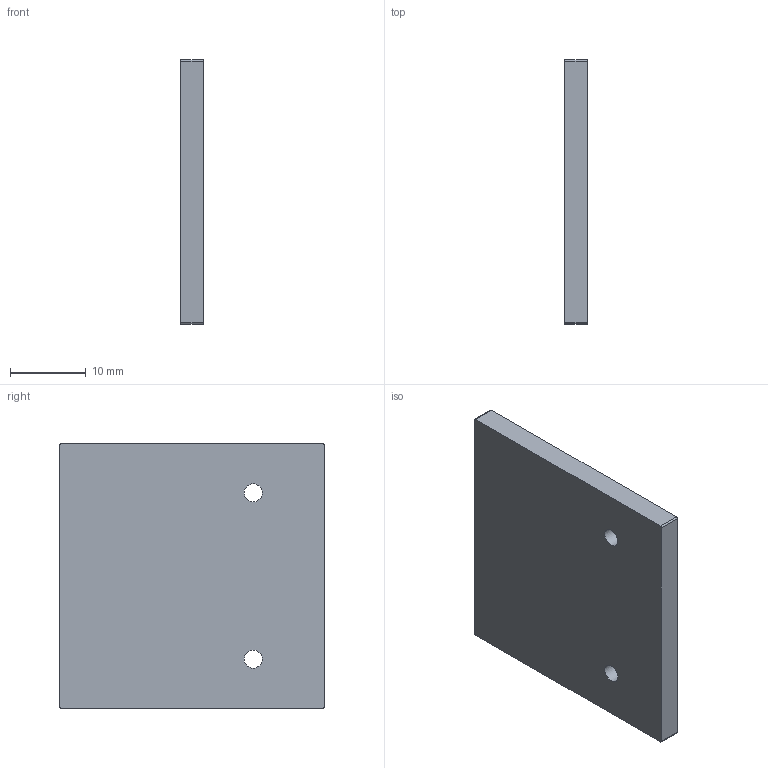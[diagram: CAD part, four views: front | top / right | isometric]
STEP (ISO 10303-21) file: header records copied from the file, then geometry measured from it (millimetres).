
FILE_DESCRIPTION (( 'STEP AP203' ), '1' );
FILE_NAME ('3535 Endcap.STEP', '2026-04-20T12:28:58', ( '' ), ( '' ), 'SwSTEP 2.0', 'SolidWorks 2025', '' );
FILE_SCHEMA (( 'CONFIG_CONTROL_DESIGN' ));
Length unit declared in the file: millimetre
Products named in the file (1): 3535 Endcap
Bounding box: 3 x 35 x 35 mm (x, y, z)
Volume: 3638.1 mm3; surface area: 2889.8 mm2
Topology: 1 solids, 1 shells, 14 faces, 34 edges, 22 vertices
Faces by surface type: cylinder 6, plane 6, cone 2
Full cylindrical faces by diameter (mm): 2.4 x2
Entity records: 481 total; most frequent: DIRECTION 74, CARTESIAN_POINT 67, ORIENTED_EDGE 60, EDGE_CURVE 30, AXIS2_PLACEMENT_3D 29, VERTEX_POINT 22, EDGE_LOOP 22, LINE 16
